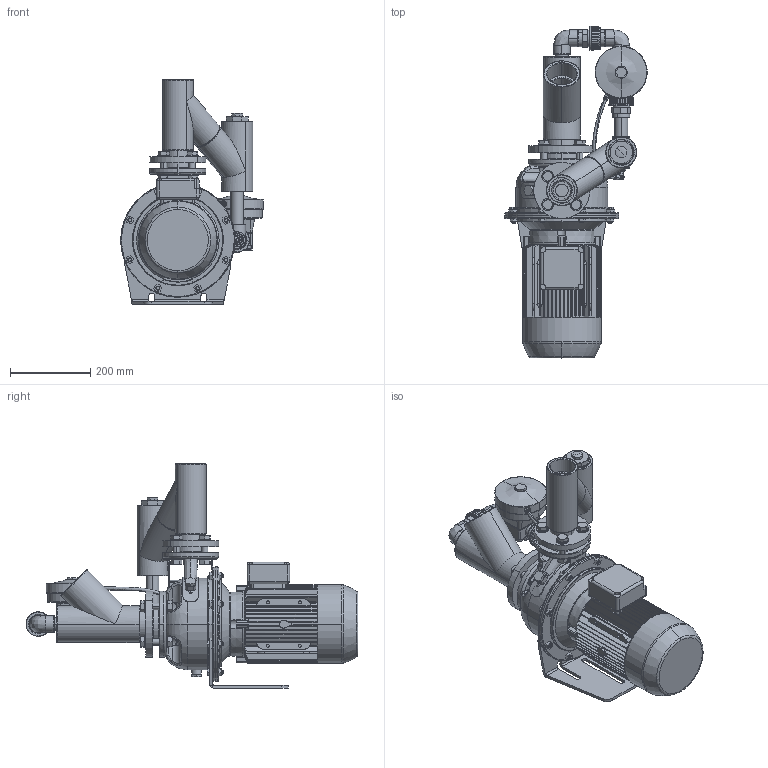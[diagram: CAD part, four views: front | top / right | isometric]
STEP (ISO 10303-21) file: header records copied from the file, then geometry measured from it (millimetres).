
FILE_DESCRIPTION (( 'STEP AP203' ), '1' );
FILE_NAME ('Lowara SHE 32-200 z.a.z auto. by-pass.STEP', '2011-04-06T07:19:55', ( '' ), ( '' ), 'SwSTEP 2.0', 'SolidWorks 2010', '' );
FILE_SCHEMA (( 'CONFIG_CONTROL_DESIGN' ));
Products named in the file (1): Lowara SHE 32-200 z.a.z auto. by-pass
Bounding box: 355.5 x 827.94 x 559.87 mm (x, y, z)
Volume: 19002101 mm3; surface area: 2095003.6 mm2
Topology: 65 solids, 67 shells, 2858 faces, 7212 edges, 4494 vertices
Faces by surface type: plane 1088, cylinder 880, cone 481, bspline 362, torus 47
Entity records: 120480 total; most frequent: CARTESIAN_POINT 55879, ORIENTED_EDGE 14216, DIRECTION 12506, EDGE_CURVE 7108, AXIS2_PLACEMENT_3D 4937, VERTEX_POINT 4499, EDGE_LOOP 3137, FACE_OUTER_BOUND 2859
